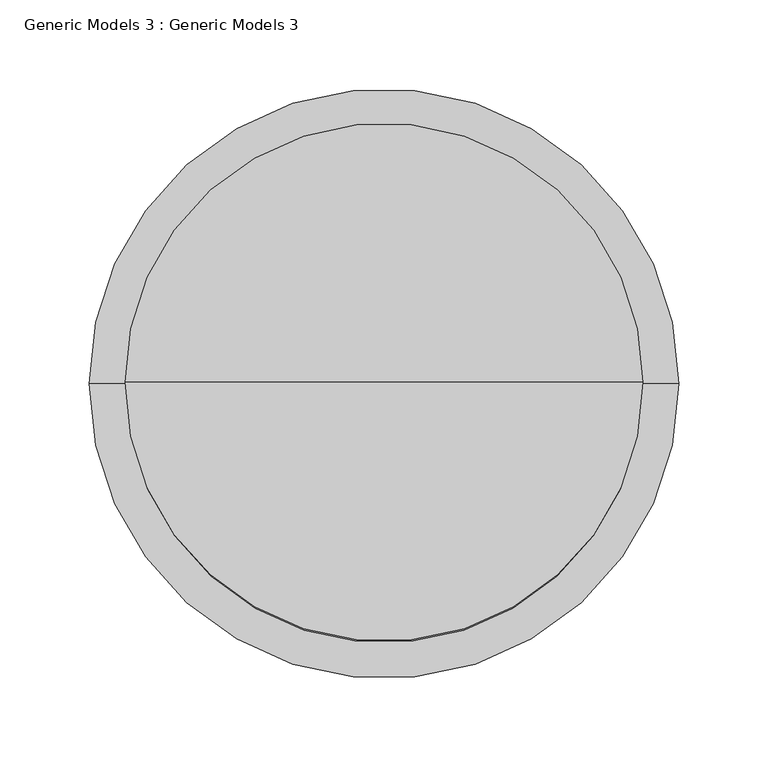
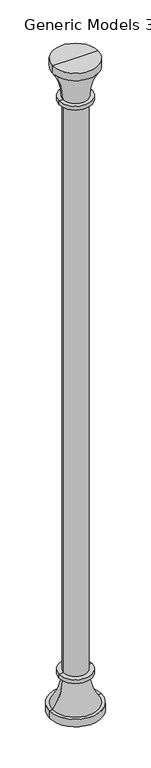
"""IFC4 building model written with IfcOpenShell, lengths in millimetres: proxy geometry, Generic Models 3 : Generic Models 3."""

from ifc_helpers import new_model, si_unit, point, frame, origin, place, context, project, spatial, circle_curve, ellipse_curve, trimmed, source, transform, mapped, element, save
from ifc_brep_helpers import plane_surface, cylinder_surface, revolved_surface, advanced_brep


def generic_models_3_generic_models_3_6c4ee744(model_context):
    return source(origin(), model_context, "Body", "AdvancedBrep", [
        advanced_brep(
        [(1420.000082, 149.9932322, 4787.5644347), (1130.000082, 149.9932322, 4787.5644347), (1130.000082, 149.9932322, 4737.5644347), (1420.000082, 149.9932322, 4737.5644347), (1275.000082, 149.9932322, 4787.5644347), (1440.000082, 149.9932322, 400.0), (1110.000082, 149.9932322, 400.0), (1275.000082, 149.9932322, 400.0), (1440.000082, 149.9932322, 450.0), (1110.000082, 149.9932322, 450.0), (1420.000082, 149.9932322, 450.0), (1130.000082, 149.9932322, 450.0), (1355.000082, 149.9932322, 650.0), (1195.000082, 149.9932322, 650.0), (1380.000082, 149.9932322, 650.0), (1170.000082, 149.9932322, 650.0), (1380.000082, 149.9932322, 675.0), (1170.000082, 149.9932322, 675.0), (1350.000082, 149.9932322, 675.0), (1200.000082, 149.9932322, 675.0), (1350.000082, 149.9932322, 4512.5644347), (1200.000082, 149.9932322, 4512.5644347), (1380.000082, 149.9932322, 4512.5644347), (1170.000082, 149.9932322, 4512.5644347), (1380.000082, 149.9932322, 4537.5644347), (1170.000082, 149.9932322, 4537.5644347), (1355.000082, 149.9932322, 4537.5644347), (1195.000082, 149.9932322, 4537.5644347)],
        [
            (0, 1, circle_curve(frame((1275.000082, 149.9932322, 4787.5644347), z_axis=(0.0, 0.0, -1.0), x_axis=(-1.0, 0.0, 0.0)), 145.0)),
            (1, 2),
            (2, 3, circle_curve(frame((1275.000082, 149.9932322, 4737.5644347), z_axis=(0.0, 0.0, 1.0), x_axis=(-1.0, 0.0, 0.0)), 145.0)),
            (3, 0),
            (1, 0, circle_curve(frame((1275.000082, 149.9932322, 4787.5644347), z_axis=(0.0, 0.0, -1.0), x_axis=(-1.0, 0.0, 0.0)), 145.0)),
            (3, 2, circle_curve(frame((1275.000082, 149.9932322, 4737.5644347), z_axis=(0.0, 0.0, 1.0), x_axis=(-1.0, 0.0, 0.0)), 145.0)),
            (4, 1),
            (0, 4),
            (5, 6, circle_curve(frame((1275.000082, 149.9932322, 400.0), z_axis=(0.0, 0.0, -1.0), x_axis=(-1.0, 0.0, 0.0)), 165.0)),
            (6, 7),
            (7, 5),
            (6, 5, circle_curve(frame((1275.000082, 149.9932322, 400.0), z_axis=(0.0, 0.0, -1.0), x_axis=(-1.0, 0.0, 0.0)), 165.0)),
            (8, 9, circle_curve(frame((1275.000082, 149.9932322, 450.0), z_axis=(0.0, 0.0, -1.0), x_axis=(-1.0, 0.0, 0.0)), 165.0)),
            (9, 6),
            (5, 8),
            (9, 8, circle_curve(frame((1275.000082, 149.9932322, 450.0), z_axis=(0.0, 0.0, -1.0), x_axis=(-1.0, 0.0, 0.0)), 165.0)),
            (10, 11, circle_curve(frame((1275.000082, 149.9932322, 450.0), z_axis=(0.0, 0.0, -1.0), x_axis=(-1.0, 0.0, 0.0)), 145.0)),
            (11, 9),
            (8, 10),
            (11, 10, circle_curve(frame((1275.000082, 149.9932322, 450.0), z_axis=(0.0, 0.0, -1.0), x_axis=(-1.0, 0.0, 0.0)), 145.0)),
            (12, 13, circle_curve(frame((1275.000082, 149.9932322, 650.0), z_axis=(0.0, 0.0, -1.0), x_axis=(-1.0, 0.0, 0.0)), 80.0)),
            (13, 11, circle_curve(frame((856.2840242, 149.9932322, 649.5202188), z_axis=(0.0, 1.0, 0.0), x_axis=(1.0, 0.0, 0.0)), 338.7163976)),
            (10, 12, circle_curve(frame((1693.7161398, 149.9932322, 649.5202188), z_axis=(0.0, 1.0, 0.0), x_axis=(-1.0, 0.0, 0.0)), 338.7163976)),
            (13, 12, circle_curve(frame((1275.000082, 149.9932322, 650.0), z_axis=(0.0, 0.0, -1.0), x_axis=(-1.0, 0.0, 0.0)), 80.0)),
            (14, 15, circle_curve(frame((1275.000082, 149.9932322, 650.0), z_axis=(0.0, 0.0, -1.0), x_axis=(-1.0, 0.0, 0.0)), 105.0)),
            (15, 13),
            (12, 14),
            (15, 14, circle_curve(frame((1275.000082, 149.9932322, 650.0), z_axis=(0.0, 0.0, -1.0), x_axis=(-1.0, 0.0, 0.0)), 105.0)),
            (16, 17, circle_curve(frame((1275.000082, 149.9932322, 675.0), z_axis=(0.0, 0.0, -1.0), x_axis=(-1.0, 0.0, 0.0)), 105.0)),
            (17, 15),
            (14, 16),
            (17, 16, circle_curve(frame((1275.000082, 149.9932322, 675.0), z_axis=(0.0, 0.0, -1.0), x_axis=(-1.0, 0.0, 0.0)), 105.0)),
            (18, 19, circle_curve(frame((1275.000082, 149.9932322, 675.0), z_axis=(0.0, 0.0, -1.0), x_axis=(-1.0, 0.0, 0.0)), 75.0)),
            (19, 17),
            (16, 18),
            (19, 18, circle_curve(frame((1275.000082, 149.9932322, 675.0), z_axis=(0.0, 0.0, -1.0), x_axis=(-1.0, 0.0, 0.0)), 75.0)),
            (20, 21, circle_curve(frame((1275.000082, 149.9932322, 4512.5644347), z_axis=(0.0, 0.0, -1.0), x_axis=(-1.0, 0.0, 0.0)), 75.0)),
            (21, 19),
            (18, 20),
            (21, 20, circle_curve(frame((1275.000082, 149.9932322, 4512.5644347), z_axis=(0.0, 0.0, -1.0), x_axis=(-1.0, 0.0, 0.0)), 75.0)),
            (22, 23, circle_curve(frame((1275.000082, 149.9932322, 4512.5644347), z_axis=(0.0, 0.0, -1.0), x_axis=(-1.0, 0.0, 0.0)), 105.0)),
            (23, 21),
            (20, 22),
            (23, 22, circle_curve(frame((1275.000082, 149.9932322, 4512.5644347), z_axis=(0.0, 0.0, -1.0), x_axis=(-1.0, 0.0, 0.0)), 105.0)),
            (24, 25, circle_curve(frame((1275.000082, 149.9932322, 4537.5644347), z_axis=(0.0, 0.0, -1.0), x_axis=(-1.0, 0.0, 0.0)), 105.0)),
            (25, 23),
            (22, 24),
            (25, 24, circle_curve(frame((1275.000082, 149.9932322, 4537.5644347), z_axis=(0.0, 0.0, -1.0), x_axis=(-1.0, 0.0, 0.0)), 105.0)),
            (26, 27, circle_curve(frame((1275.000082, 149.9932322, 4537.5644347), z_axis=(0.0, 0.0, -1.0), x_axis=(-1.0, 0.0, 0.0)), 80.0)),
            (27, 25),
            (24, 26),
            (27, 26, circle_curve(frame((1275.000082, 149.9932322, 4537.5644347), z_axis=(0.0, 0.0, -1.0), x_axis=(-1.0, 0.0, 0.0)), 80.0)),
            (2, 27, circle_curve(frame((856.2840242, 149.9932322, 4538.0442159), z_axis=(0.0, 1.0, 0.0), x_axis=(1.0, 0.0, 0.0)), 338.7163976)),
            (26, 3, circle_curve(frame((1693.7161398, 149.9932322, 4538.0442159), z_axis=(0.0, 1.0, 0.0), x_axis=(-1.0, 0.0, 0.0)), 338.7163976)),
        ],
        [
            cylinder_surface(frame((1275.000082, 149.9932322, 4787.5644347), z_axis=(0.0, 0.0, 1.0), x_axis=(-1.0, 0.0, 0.0)), 145.0),
            plane_surface(frame((1275.000082, 149.9932322, 4787.5644347), z_axis=(0.0, 0.0, 1.0), x_axis=(-1.0, 0.0, 0.0))),
            plane_surface(frame((1275.000082, 149.9932322, 400.0), z_axis=(0.0, 0.0, -1.0), x_axis=(-1.0, 0.0, 0.0))),
            cylinder_surface(frame((1275.000082, 149.9932322, 4787.5644347), z_axis=(0.0, 0.0, 1.0), x_axis=(-1.0, 0.0, 0.0)), 165.0),
            plane_surface(frame((1275.000082, 149.9932322, 450.0), z_axis=(0.0, 0.0, 1.0), x_axis=(-1.0, 0.0, 0.0))),
            revolved_surface(trimmed(ellipse_curve(frame((856.2840242, 149.9932322, 649.5202188), z_axis=(0.0, -1.0, 0.0), x_axis=(1.0, 0.0, 0.0)), 338.7163976, 338.7163976), [point((1130.000082, 149.9932322, 450.0))], [point((1195.000082, 149.9932322, 650.0))], True, "CARTESIAN"), (1275.000082, 149.9932322, 4787.5644347), (0.0, 0.0, 1.0)),
            plane_surface(frame((1275.000082, 149.9932322, 650.0), z_axis=(0.0, 0.0, -1.0), x_axis=(-1.0, 0.0, 0.0))),
            cylinder_surface(frame((1275.000082, 149.9932322, 4787.5644347), z_axis=(0.0, 0.0, 1.0), x_axis=(-1.0, 0.0, 0.0)), 105.0),
            plane_surface(frame((1275.000082, 149.9932322, 675.0), z_axis=(0.0, 0.0, 1.0), x_axis=(-1.0, 0.0, 0.0))),
            cylinder_surface(frame((1275.000082, 149.9932322, 4787.5644347), z_axis=(0.0, 0.0, 1.0), x_axis=(-1.0, 0.0, 0.0)), 75.0),
            plane_surface(frame((1275.000082, 149.9932322, 4512.5644347), z_axis=(0.0, 0.0, -1.0), x_axis=(-1.0, 0.0, 0.0))),
            plane_surface(frame((1275.000082, 149.9932322, 4537.5644347), z_axis=(0.0, 0.0, 1.0), x_axis=(-1.0, 0.0, 0.0))),
            revolved_surface(trimmed(ellipse_curve(frame((856.2840242, 149.9932322, 4538.0442159), z_axis=(0.0, -1.0, 0.0), x_axis=(1.0, 0.0, 0.0)), 338.7163976, 338.7163976), [point((1195.000082, 149.9932322, 4537.5644347))], [point((1130.000082, 149.9932322, 4737.5644347))], True, "CARTESIAN"), (1275.000082, 149.9932322, 4787.5644347), (0.0, 0.0, 1.0)),
        ],
        [
            (0, [[1, 2, 3, 4]]),
            (0, [[5, -4, 6, -2]]),
            (1, [[7, -1, 8]]),
            (1, [[-8, -5, -7]]),
            (2, [[9, 10, 11]]),
            (2, [[12, -11, -10]]),
            (3, [[13, 14, -9, 15]]),
            (3, [[16, -15, -12, -14]]),
            (4, [[17, 18, -13, 19]]),
            (4, [[20, -19, -16, -18]]),
            (5, [[21, 22, -17, 23]]),
            (5, [[24, -23, -20, -22]]),
            (6, [[25, 26, -21, 27]]),
            (6, [[28, -27, -24, -26]]),
            (7, [[29, 30, -25, 31]]),
            (7, [[32, -31, -28, -30]]),
            (8, [[33, 34, -29, 35]]),
            (8, [[36, -35, -32, -34]]),
            (9, [[37, 38, -33, 39]]),
            (9, [[40, -39, -36, -38]]),
            (10, [[41, 42, -37, 43]]),
            (10, [[44, -43, -40, -42]]),
            (7, [[45, 46, -41, 47]]),
            (7, [[48, -47, -44, -46]]),
            (11, [[49, 50, -45, 51]]),
            (11, [[52, -51, -48, -50]]),
            (12, [[-3, 53, -49, 54]]),
            (12, [[-6, -54, -52, -53]]),
        ],
    ),
    ])


if __name__ == "__main__":
    model = new_model("IFC4")
    model_context = context("Model", 3, world=origin())
    ifc_project = project(units=[si_unit("LENGTHUNIT", "METRE", prefix="MILLI")], contexts=[model_context])
    site = spatial("IfcSite", under=ifc_project)
    building = spatial("IfcBuilding", under=site)
    placement = place(None, origin())
    generic_models_3_generic_models_3_shape = generic_models_3_generic_models_3_6c4ee744(model_context)
    element("IfcBuildingElementProxy", 1, Name="Generic Models 3 : Generic Models 3", ObjectType="Generic Models 3 : Generic Models 3", at=placement, inside=building, context=model_context, shape_type="MappedRepresentation", body=[
        mapped(generic_models_3_generic_models_3_shape, transform((0.0, 0.0, 0.0), x_axis=(1.0, 0.0, 0.0), y_axis=(0.0, 1.0, 0.0), z_axis=(0.0, 0.0, 1.0))),
    ])
    save(model, "model.ifc")
